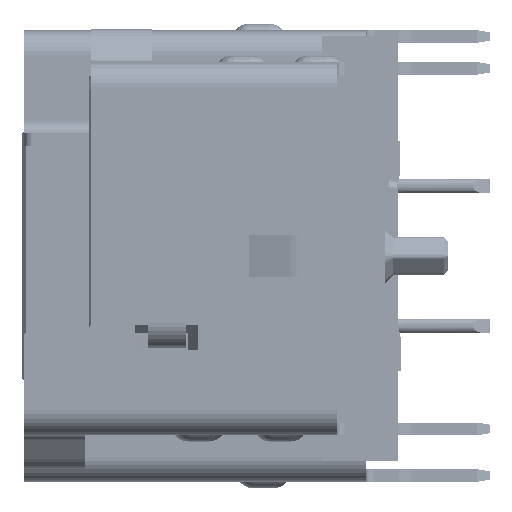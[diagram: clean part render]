
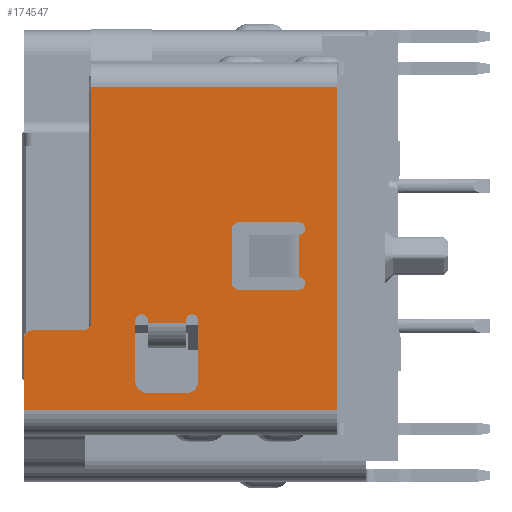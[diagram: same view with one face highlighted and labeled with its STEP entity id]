
A CAD part, left-side view. The second image highlights one B-rep face of the part: STEP entity #174547.
In plain terms, the highlighted planar face has unit normal (-1, 0, 0).
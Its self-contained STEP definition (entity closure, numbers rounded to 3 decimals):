
#1970=DIRECTION('',(0.,1.,0.));
#1971=VECTOR('',#1970,5.85);
#1972=CARTESIAN_POINT('',(-25.95,1.45,-0.06));
#1973=LINE('',#1972,#1971);
#1978=DIRECTION('',(0.,0.,-1.));
#1979=VECTOR('',#1978,7.69);
#1980=CARTESIAN_POINT('',(-25.95,1.45,-0.06));
#1981=LINE('',#1980,#1979);
#1982=DIRECTION('',(0.,0.,1.));
#1983=VECTOR('',#1982,1.7);
#1984=CARTESIAN_POINT('',(-25.95,8.9,-7.75));
#1985=LINE('',#1984,#1983);
#1986=CARTESIAN_POINT('',(-25.95,8.7,-6.05));
#1987=DIRECTION('',(1.,0.,0.));
#1988=DIRECTION('',(0.,1.,0.));
#1989=AXIS2_PLACEMENT_3D('',#1986,#1987,#1988);
#1991=CARTESIAN_POINT('',(-25.95,7.5,-5.65));
#1992=DIRECTION('',(-1.,0.,0.));
#1993=DIRECTION('',(0.,0.,-1.));
#1994=AXIS2_PLACEMENT_3D('',#1991,#1992,#1993);
#1996=CARTESIAN_POINT('',(-25.95,2.35,-3.43));
#1997=DIRECTION('',(-1.,0.,0.));
#1998=DIRECTION('',(0.,0.,-1.));
#1999=AXIS2_PLACEMENT_3D('',#1996,#1997,#1998);
#2001=CARTESIAN_POINT('',(-25.95,3.8,-3.43));
#2002=DIRECTION('',(-1.,0.,0.));
#2003=DIRECTION('',(0.,0.,1.));
#2004=AXIS2_PLACEMENT_3D('',#2001,#2002,#2003);
#2006=CARTESIAN_POINT('',(-25.95,3.8,-4.73));
#2007=DIRECTION('',(-1.,0.,0.));
#2008=DIRECTION('',(0.,1.,0.));
#2009=AXIS2_PLACEMENT_3D('',#2006,#2007,#2008);
#2011=CARTESIAN_POINT('',(-25.95,2.35,-4.73));
#2012=DIRECTION('',(-1.,0.,0.));
#2013=DIRECTION('',(0.,0.,-1.));
#2014=AXIS2_PLACEMENT_3D('',#2011,#2012,#2013);
#2016=CARTESIAN_POINT('',(-25.95,6.1,-5.62));
#2017=DIRECTION('',(-1.,0.,0.));
#2018=DIRECTION('',(0.,-1.,0.));
#2019=AXIS2_PLACEMENT_3D('',#2016,#2017,#2018);
#2021=CARTESIAN_POINT('',(-25.95,5.95,-7.05));
#2022=DIRECTION('',(-1.,0.,0.));
#2023=DIRECTION('',(0.,1.,0.));
#2024=AXIS2_PLACEMENT_3D('',#2021,#2022,#2023);
#2026=CARTESIAN_POINT('',(-25.95,5.05,-7.05));
#2027=DIRECTION('',(-1.,0.,0.));
#2028=DIRECTION('',(0.,0.,-1.));
#2029=AXIS2_PLACEMENT_3D('',#2026,#2027,#2028);
#2031=CARTESIAN_POINT('',(-25.95,4.9,-5.62));
#2032=DIRECTION('',(-1.,0.,0.));
#2033=DIRECTION('',(0.,-1.,0.));
#2034=AXIS2_PLACEMENT_3D('',#2031,#2032,#2033);
#2036=DIRECTION('',(0.,0.,-1.));
#2037=VECTOR('',#2036,0.05);
#2038=CARTESIAN_POINT('',(-25.95,5.05,-5.62));
#2039=LINE('',#2038,#2037);
#2113=DIRECTION('',(0.,0.,-1.));
#2114=VECTOR('',#2113,5.59);
#2115=CARTESIAN_POINT('',(-25.95,7.3,-0.06));
#2116=LINE('',#2115,#2114);
#2486=DIRECTION('',(0.,1.,0.));
#2487=VECTOR('',#2486,1.2);
#2488=CARTESIAN_POINT('',(-25.95,7.5,-5.85));
#2489=LINE('',#2488,#2487);
#6807=DIRECTION('',(0.,0.,-1.));
#6808=VECTOR('',#6807,0.05);
#6809=CARTESIAN_POINT('',(-25.95,5.95,-5.62));
#6810=LINE('',#6809,#6808);
#6811=DIRECTION('',(0.,-1.,0.));
#6812=VECTOR('',#6811,0.9);
#6813=CARTESIAN_POINT('',(-25.95,5.95,-5.67));
#6814=LINE('',#6813,#6812);
#6937=DIRECTION('',(0.,0.,-1.));
#6938=VECTOR('',#6937,1.43);
#6939=CARTESIAN_POINT('',(-25.95,4.75,-5.62));
#6940=LINE('',#6939,#6938);
#6949=DIRECTION('',(0.,1.,0.));
#6950=VECTOR('',#6949,0.9);
#6951=CARTESIAN_POINT('',(-25.95,5.05,-7.35));
#6952=LINE('',#6951,#6950);
#6961=DIRECTION('',(0.,0.,1.));
#6962=VECTOR('',#6961,1.43);
#6963=CARTESIAN_POINT('',(-25.95,6.25,-7.05));
#6964=LINE('',#6963,#6962);
#83747=DIRECTION('',(0.,-1.,0.));
#83748=VECTOR('',#83747,7.45);
#83749=CARTESIAN_POINT('',(-25.95,8.9,-7.75));
#83750=LINE('',#83749,#83748);
#84733=DIRECTION('',(0.,0.,-1.));
#84734=VECTOR('',#84733,1.);
#84735=CARTESIAN_POINT('',(-25.95,2.35,-3.58));
#84736=LINE('',#84735,#84734);
#84791=DIRECTION('',(0.,1.,0.));
#84792=VECTOR('',#84791,1.45);
#84793=CARTESIAN_POINT('',(-25.95,2.35,-4.88));
#84794=LINE('',#84793,#84792);
#84807=DIRECTION('',(0.,0.,1.));
#84808=VECTOR('',#84807,1.3);
#84809=CARTESIAN_POINT('',(-25.95,3.95,-4.73));
#84810=LINE('',#84809,#84808);
#84823=DIRECTION('',(0.,-1.,0.));
#84824=VECTOR('',#84823,1.45);
#84825=CARTESIAN_POINT('',(-25.95,3.8,-3.28));
#84826=LINE('',#84825,#84824);
#140285=CARTESIAN_POINT('',(-25.95,1.45,-7.75));
#140286=VERTEX_POINT('',#140285);
#140289=CARTESIAN_POINT('',(-25.95,8.9,-7.75));
#140290=VERTEX_POINT('',#140289);
#140655=CARTESIAN_POINT('',(-25.95,7.3,-0.06));
#140656=CARTESIAN_POINT('',(-25.95,7.3,-5.65));
#140657=VERTEX_POINT('',#140655);
#140658=VERTEX_POINT('',#140656);
#140659=CARTESIAN_POINT('',(-25.95,1.45,-0.06));
#140660=VERTEX_POINT('',#140659);
#140661=CARTESIAN_POINT('',(-25.95,8.9,-6.05));
#140662=VERTEX_POINT('',#140661);
#140663=CARTESIAN_POINT('',(-25.95,8.7,-5.85));
#140664=VERTEX_POINT('',#140663);
#140665=CARTESIAN_POINT('',(-25.95,7.5,-5.85));
#140666=VERTEX_POINT('',#140665);
#140667=CARTESIAN_POINT('',(-25.95,2.35,-3.58));
#140668=CARTESIAN_POINT('',(-25.95,2.35,-3.28));
#140669=VERTEX_POINT('',#140667);
#140670=VERTEX_POINT('',#140668);
#140671=CARTESIAN_POINT('',(-25.95,3.8,-3.28));
#140672=VERTEX_POINT('',#140671);
#140673=CARTESIAN_POINT('',(-25.95,3.95,-3.43));
#140674=VERTEX_POINT('',#140673);
#140675=CARTESIAN_POINT('',(-25.95,3.95,-4.73));
#140676=VERTEX_POINT('',#140675);
#140677=CARTESIAN_POINT('',(-25.95,3.8,-4.88));
#140678=VERTEX_POINT('',#140677);
#140679=CARTESIAN_POINT('',(-25.95,2.35,-4.88));
#140680=VERTEX_POINT('',#140679);
#140681=CARTESIAN_POINT('',(-25.95,2.35,-4.58));
#140682=VERTEX_POINT('',#140681);
#140683=CARTESIAN_POINT('',(-25.95,5.95,-5.62));
#140684=CARTESIAN_POINT('',(-25.95,6.25,-5.62));
#140685=VERTEX_POINT('',#140683);
#140686=VERTEX_POINT('',#140684);
#140687=CARTESIAN_POINT('',(-25.95,6.25,-7.05));
#140688=VERTEX_POINT('',#140687);
#140689=CARTESIAN_POINT('',(-25.95,5.95,-7.35));
#140690=VERTEX_POINT('',#140689);
#140691=CARTESIAN_POINT('',(-25.95,5.05,-7.35));
#140692=VERTEX_POINT('',#140691);
#140693=CARTESIAN_POINT('',(-25.95,4.75,-7.05));
#140694=VERTEX_POINT('',#140693);
#140695=CARTESIAN_POINT('',(-25.95,4.75,-5.62));
#140696=VERTEX_POINT('',#140695);
#140697=CARTESIAN_POINT('',(-25.95,5.05,-5.62));
#140698=VERTEX_POINT('',#140697);
#140699=CARTESIAN_POINT('',(-25.95,5.05,-5.67));
#140700=VERTEX_POINT('',#140699);
#140701=CARTESIAN_POINT('',(-25.95,5.95,-5.67));
#140702=VERTEX_POINT('',#140701);
#174486=CARTESIAN_POINT('',(-25.95,0.75,-7.75));
#174487=DIRECTION('',(-1.,0.,0.));
#174488=DIRECTION('',(0.,0.,1.));
#174489=AXIS2_PLACEMENT_3D('',#174486,#174487,#174488);
#174490=PLANE('',#174489);
#174492=ORIENTED_EDGE('',*,*,#174491,.F.);
#174493=ORIENTED_EDGE('',*,*,#174478,.F.);
#174494=ORIENTED_EDGE('',*,*,#173925,.T.);
#174496=ORIENTED_EDGE('',*,*,#174495,.F.);
#174498=ORIENTED_EDGE('',*,*,#174497,.T.);
#174500=ORIENTED_EDGE('',*,*,#174499,.T.);
#174502=ORIENTED_EDGE('',*,*,#174501,.F.);
#174504=ORIENTED_EDGE('',*,*,#174503,.T.);
#174505=EDGE_LOOP('',(#174492,#174493,#174494,#174496,#174498,#174500,#174502,
#174504));
#174506=FACE_OUTER_BOUND('',#174505,.F.);
#174508=ORIENTED_EDGE('',*,*,#174507,.T.);
#174510=ORIENTED_EDGE('',*,*,#174509,.F.);
#174512=ORIENTED_EDGE('',*,*,#174511,.T.);
#174514=ORIENTED_EDGE('',*,*,#174513,.F.);
#174516=ORIENTED_EDGE('',*,*,#174515,.T.);
#174518=ORIENTED_EDGE('',*,*,#174517,.F.);
#174520=ORIENTED_EDGE('',*,*,#174519,.T.);
#174522=ORIENTED_EDGE('',*,*,#174521,.F.);
#174523=EDGE_LOOP('',(#174508,#174510,#174512,#174514,#174516,#174518,#174520,
#174522));
#174524=FACE_BOUND('',#174523,.F.);
#174526=ORIENTED_EDGE('',*,*,#174525,.T.);
#174528=ORIENTED_EDGE('',*,*,#174527,.F.);
#174530=ORIENTED_EDGE('',*,*,#174529,.T.);
#174532=ORIENTED_EDGE('',*,*,#174531,.F.);
#174534=ORIENTED_EDGE('',*,*,#174533,.T.);
#174536=ORIENTED_EDGE('',*,*,#174535,.F.);
#174538=ORIENTED_EDGE('',*,*,#174537,.T.);
#174540=ORIENTED_EDGE('',*,*,#174539,.T.);
#174542=ORIENTED_EDGE('',*,*,#174541,.F.);
#174544=ORIENTED_EDGE('',*,*,#174543,.F.);
#174545=EDGE_LOOP('',(#174526,#174528,#174530,#174532,#174534,#174536,#174538,
#174540,#174542,#174544));
#174546=FACE_BOUND('',#174545,.F.);
#174547=ADVANCED_FACE('',(#174506,#174524,#174546),#174490,.T.);
#1990=CIRCLE('',#1989,0.2);
#1995=CIRCLE('',#1994,0.2);
#2000=CIRCLE('',#1999,0.15);
#2005=CIRCLE('',#2004,0.15);
#2010=CIRCLE('',#2009,0.15);
#2015=CIRCLE('',#2014,0.15);
#2020=CIRCLE('',#2019,0.15);
#2025=CIRCLE('',#2024,0.3);
#2030=CIRCLE('',#2029,0.3);
#2035=CIRCLE('',#2034,0.15);
#173925=EDGE_CURVE('',#140660,#140286,#1981,.T.);
#174478=EDGE_CURVE('',#140660,#140657,#1973,.T.);
#174491=EDGE_CURVE('',#140657,#140658,#2116,.T.);
#174495=EDGE_CURVE('',#140290,#140286,#83750,.T.);
#174497=EDGE_CURVE('',#140290,#140662,#1985,.T.);
#174499=EDGE_CURVE('',#140662,#140664,#1990,.T.);
#174501=EDGE_CURVE('',#140666,#140664,#2489,.T.);
#174503=EDGE_CURVE('',#140666,#140658,#1995,.T.);
#174507=EDGE_CURVE('',#140669,#140670,#2000,.T.);
#174509=EDGE_CURVE('',#140672,#140670,#84826,.T.);
#174511=EDGE_CURVE('',#140672,#140674,#2005,.T.);
#174513=EDGE_CURVE('',#140676,#140674,#84810,.T.);
#174515=EDGE_CURVE('',#140676,#140678,#2010,.T.);
#174517=EDGE_CURVE('',#140680,#140678,#84794,.T.);
#174519=EDGE_CURVE('',#140680,#140682,#2015,.T.);
#174521=EDGE_CURVE('',#140669,#140682,#84736,.T.);
#174525=EDGE_CURVE('',#140685,#140686,#2020,.T.);
#174527=EDGE_CURVE('',#140688,#140686,#6964,.T.);
#174529=EDGE_CURVE('',#140688,#140690,#2025,.T.);
#174531=EDGE_CURVE('',#140692,#140690,#6952,.T.);
#174533=EDGE_CURVE('',#140692,#140694,#2030,.T.);
#174535=EDGE_CURVE('',#140696,#140694,#6940,.T.);
#174537=EDGE_CURVE('',#140696,#140698,#2035,.T.);
#174539=EDGE_CURVE('',#140698,#140700,#2039,.T.);
#174541=EDGE_CURVE('',#140702,#140700,#6814,.T.);
#174543=EDGE_CURVE('',#140685,#140702,#6810,.T.);
